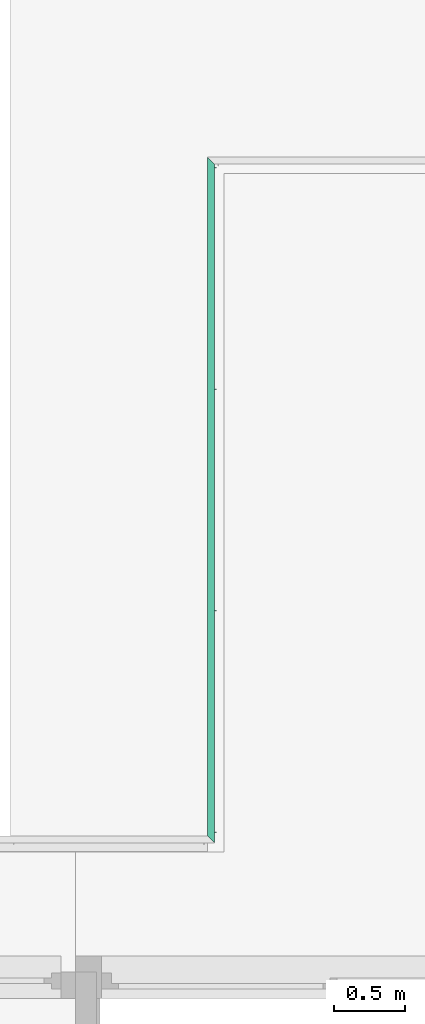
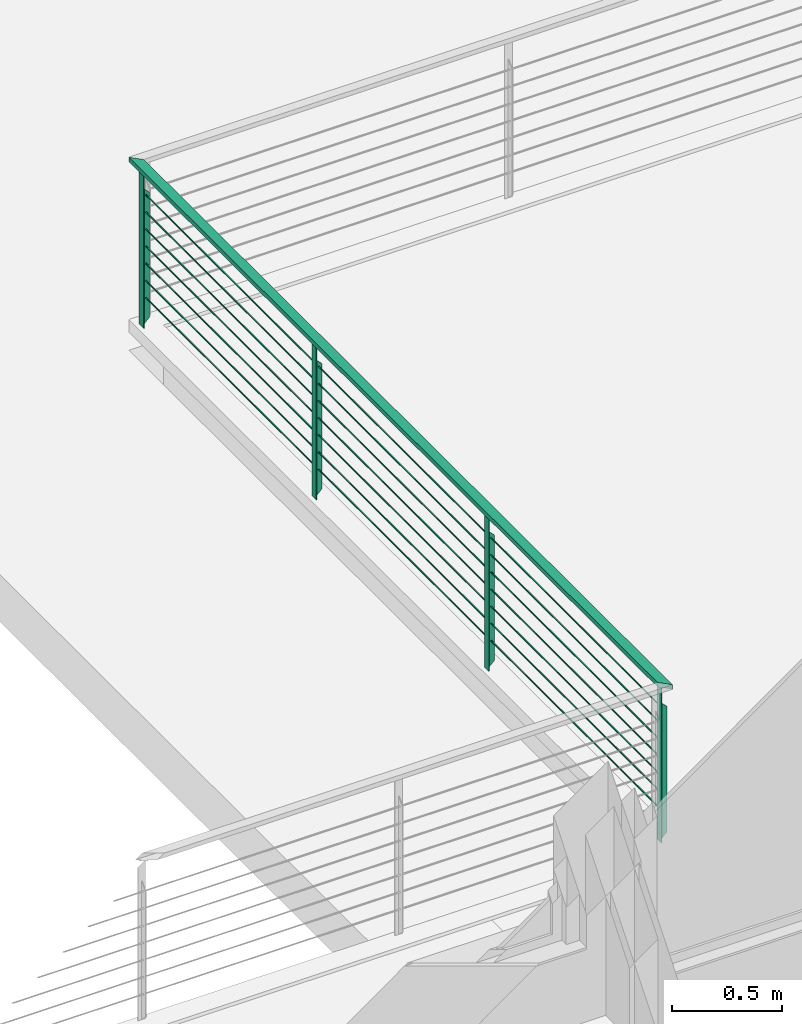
# One storey, part 20 of 24: 1 distribution element.
"""IFC2X3 building model written with IfcOpenShell, lengths in millimetres."""

from ifc_helpers import new_model, entity, si_unit, converted_unit, money_unit, direction, frame, origin_with_axes, place, context, subcontext, project, spatial, faceted_brep, material, type_object, element, save


model = new_model("IFC2X3")

# Units and contexts
model_context = context("Model", 3, precision=1e-05, world=origin_with_axes(), true_north=direction((0.0, 1.0)))
body_context = subcontext(model_context, "Body", "Model", "MODEL_VIEW")
ifc_project = project(units=[si_unit("LENGTHUNIT", "METRE", prefix="MILLI"), si_unit("AREAUNIT", "SQUARE_METRE"), si_unit("VOLUMEUNIT", "CUBIC_METRE"), converted_unit("PLANEANGLEUNIT", "DEGREE", entity("IfcPlaneAngleMeasure", 0.0174532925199), si_unit("PLANEANGLEUNIT", "RADIAN"), dimensions=[0, 0, 0, 0, 0, 0, 0]), si_unit("SOLIDANGLEUNIT", "STERADIAN"), money_unit("USD"), converted_unit("TIMEUNIT", "Year", entity("IfcTimeMeasure", 31556926.0), si_unit("TIMEUNIT", "SECOND"), dimensions=[0, 0, 0, 0, 0, 0, 0]), si_unit("MASSUNIT", "GRAM"), si_unit("THERMODYNAMICTEMPERATUREUNIT", "DEGREE_CELSIUS"), si_unit("LUMINOUSINTENSITYUNIT", "LUMEN")], contexts=[model_context])

# Site, building, storey
site_placement = place(None, origin_with_axes())
site = spatial("IfcSite", under=ifc_project, at=site_placement, Name="Grove Residential", CompositionType="ELEMENT")
building_placement = place(site_placement, origin_with_axes())
building = spatial("IfcBuilding", under=site, at=building_placement, Name="Building", CompositionType="ELEMENT")
storey_placement = place(building_placement, frame((0.0, 0.0, 3740.0), z_axis=(0.0, 0.0, 1.0), x_axis=(1.0, 0.0, 0.0)))
storey = spatial("IfcBuildingStorey", under=building, at=storey_placement, Name="First Floor", CompositionType="ELEMENT", Elevation=3740.0)

# Distribution element
ifc_material = material(Name="Background")
distribution_element_type = type_object("IfcDistributionElementType", Name="Rail Wired 02 20")
distribution_element_placement = place(storey_placement, frame((1524.99988526, 12775.0, -80.0), z_axis=(0.0, 0.0, 1.0), x_axis=(0.0, 1.0, 0.0)))
element("IfcDistributionElement", 1, at=distribution_element_placement, inside=storey, type_object=distribution_element_type, material=ifc_material, Name="FU - 001", context=body_context, shape_type="Brep", body=[
    faceted_brep([(25.0, 25.0, 875.0), (25.0, 25.0, 900.0), (25.0, 25.0, 900.0), (25.0, 25.0, 875.0), (-4775.0, 25.0, 875.0), (-4775.0, 25.0, 900.0), (-4825.0, -25.0, 900.0), (-4825.0, -25.0, 900.0), (-25.0, -25.0, 900.0), (-25.0, -25.0, 875.0), (-4825.0, -25.0, 875.0), (-4825.0, -25.0, 875.0)], [[[0, 1, 2, 3]], [[4, 5, 1, 0]], [[1, 5, 6, 7, 8, 2]], [[3, 2, 8, 9]], [[0, 3, 9, 10, 11, 4]], [[11, 6, 5, 4]], [[10, 7, 6, 11]], [[9, 8, 7, 10]]]),
    faceted_brep([(-30.0, -2.0, 0.0), (-30.0, -2.0, 871.0), (-70.0, -2.0, 871.0), (-70.0, -2.0, 0.0), (-30.0, 2.0, 0.0), (-30.0, 2.0, 871.0), (-70.0, 2.0, 871.0), (-70.0, 2.0, 0.0)], [[[0, 1, 2, 3]], [[4, 5, 1, 0]], [[1, 5, 6, 2]], [[3, 2, 6, 7]], [[0, 3, 7, 4]], [[7, 6, 5, 4]]]),
    faceted_brep([(-52.0, -38.0, 36.0), (-48.0, -38.0, 36.0), (-48.0, -38.0, 731.0), (-52.0, -38.0, 731.0), (-52.0, -2.0, 0.0), (-48.0, -2.0, 0.0), (-48.0, -2.0, 767.0), (-52.0, -2.0, 767.0)], [[[0, 1, 2, 3]], [[4, 5, 1, 0]], [[1, 5, 6, 2]], [[3, 2, 6, 7]], [[0, 3, 7, 4]], [[7, 6, 5, 4]]]),
    faceted_brep([(-1596.66666667, -2.0, 0.0), (-1596.66666667, -2.0, 871.0), (-1636.66666667, -2.0, 871.0), (-1636.66666667, -2.0, 0.0), (-1596.66666667, 2.0, 0.0), (-1596.66666667, 2.0, 871.0), (-1636.66666667, 2.0, 871.0), (-1636.66666667, 2.0, 0.0)], [[[0, 1, 2, 3]], [[4, 5, 1, 0]], [[1, 5, 6, 2]], [[3, 2, 6, 7]], [[0, 3, 7, 4]], [[7, 6, 5, 4]]]),
    faceted_brep([(-1618.66666667, -38.0, 36.0), (-1614.66666667, -38.0, 36.0), (-1614.66666667, -38.0, 731.0), (-1618.66666667, -38.0, 731.0), (-1618.66666667, -2.0, 0.0), (-1614.66666667, -2.0, 0.0), (-1614.66666667, -2.0, 767.0), (-1618.66666667, -2.0, 767.0)], [[[0, 1, 2, 3]], [[4, 5, 1, 0]], [[1, 5, 6, 2]], [[3, 2, 6, 7]], [[0, 3, 7, 4]], [[7, 6, 5, 4]]]),
    faceted_brep([(-3163.33333333, -2.0, 0.0), (-3163.33333333, -2.0, 871.0), (-3203.33333333, -2.0, 871.0), (-3203.33333333, -2.0, 0.0), (-3163.33333333, 2.0, 0.0), (-3163.33333333, 2.0, 871.0), (-3203.33333333, 2.0, 871.0), (-3203.33333333, 2.0, 0.0)], [[[0, 1, 2, 3]], [[4, 5, 1, 0]], [[1, 5, 6, 2]], [[3, 2, 6, 7]], [[0, 3, 7, 4]], [[7, 6, 5, 4]]]),
    faceted_brep([(-3185.33333333, -38.0, 36.0), (-3181.33333333, -38.0, 36.0), (-3181.33333333, -38.0, 731.0), (-3185.33333333, -38.0, 731.0), (-3185.33333333, -2.0, 0.0), (-3181.33333333, -2.0, 0.0), (-3181.33333333, -2.0, 767.0), (-3185.33333333, -2.0, 767.0)], [[[0, 1, 2, 3]], [[4, 5, 1, 0]], [[1, 5, 6, 2]], [[3, 2, 6, 7]], [[0, 3, 7, 4]], [[7, 6, 5, 4]]]),
    faceted_brep([(-4730.0, -2.0, 0.0), (-4730.0, -2.0, 871.0), (-4770.0, -2.0, 871.0), (-4770.0, -2.0, 0.0), (-4730.0, 2.0, 0.0), (-4730.0, 2.0, 871.0), (-4770.0, 2.0, 871.0), (-4770.0, 2.0, 0.0)], [[[0, 1, 2, 3]], [[4, 5, 1, 0]], [[1, 5, 6, 2]], [[3, 2, 6, 7]], [[0, 3, 7, 4]], [[7, 6, 5, 4]]]),
    faceted_brep([(-4752.0, -38.0, 36.0), (-4748.0, -38.0, 36.0), (-4748.0, -38.0, 731.0), (-4752.0, -38.0, 731.0), (-4752.0, -2.0, 0.0), (-4748.0, -2.0, 0.0), (-4748.0, -2.0, 767.0), (-4752.0, -2.0, 767.0)], [[[0, 1, 2, 3]], [[4, 5, 1, 0]], [[1, 5, 6, 2]], [[3, 2, 6, 7]], [[0, 3, 7, 4]], [[7, 6, 5, 4]]]),
    faceted_brep([(-20.0, -15.0, 871.0), (-20.0, -15.0, 875.0), (-80.0, -15.0, 875.0), (-80.0, -15.0, 871.0), (-20.0, 15.0, 871.0), (-20.0, 15.0, 875.0), (-80.0, 15.0, 875.0), (-80.0, 15.0, 871.0)], [[[0, 1, 2, 3]], [[4, 5, 1, 0]], [[1, 5, 6, 2]], [[3, 2, 6, 7]], [[0, 3, 7, 4]], [[7, 6, 5, 4]]]),
    faceted_brep([(-1586.66666667, -15.0, 871.0), (-1586.66666667, -15.0, 875.0), (-1646.66666667, -15.0, 875.0), (-1646.66666667, -15.0, 871.0), (-1586.66666667, 15.0, 871.0), (-1586.66666667, 15.0, 875.0), (-1646.66666667, 15.0, 875.0), (-1646.66666667, 15.0, 871.0)], [[[0, 1, 2, 3]], [[4, 5, 1, 0]], [[1, 5, 6, 2]], [[3, 2, 6, 7]], [[0, 3, 7, 4]], [[7, 6, 5, 4]]]),
    faceted_brep([(-3153.33333333, -15.0, 871.0), (-3153.33333333, -15.0, 875.0), (-3213.33333333, -15.0, 875.0), (-3213.33333333, -15.0, 871.0), (-3153.33333333, 15.0, 871.0), (-3153.33333333, 15.0, 875.0), (-3213.33333333, 15.0, 875.0), (-3213.33333333, 15.0, 871.0)], [[[0, 1, 2, 3]], [[4, 5, 1, 0]], [[1, 5, 6, 2]], [[3, 2, 6, 7]], [[0, 3, 7, 4]], [[7, 6, 5, 4]]]),
    faceted_brep([(-4720.0, -15.0, 871.0), (-4720.0, -15.0, 875.0), (-4780.0, -15.0, 875.0), (-4780.0, -15.0, 871.0), (-4720.0, 15.0, 871.0), (-4720.0, 15.0, 875.0), (-4780.0, 15.0, 875.0), (-4780.0, 15.0, 871.0)], [[[0, 1, 2, 3]], [[4, 5, 1, 0]], [[1, 5, 6, 2]], [[3, 2, 6, 7]], [[0, 3, 7, 4]], [[7, 6, 5, 4]]]),
    faceted_brep([(-4730.0, -22.0, 155.0), (-4748.0, -22.0, 155.0), (-4748.0, -22.5, 155.0), (-3185.33333333, -22.5, 155.0), (-3185.33333333, -22.0, 155.0), (-3203.33333333, -22.0, 155.0), (-3203.33333333, -18.0, 155.0), (-3163.33333333, -18.0, 155.0), (-3163.33333333, -22.0, 155.0), (-3181.33333333, -22.0, 155.0), (-3181.33333333, -22.5, 155.0), (-1618.66666667, -22.5, 155.0), (-1618.66666667, -22.0, 155.0), (-1636.66666667, -22.0, 155.0), (-1636.66666667, -18.0, 155.0), (-1596.66666667, -18.0, 155.0), (-1596.66666667, -22.0, 155.0), (-1614.66666667, -22.0, 155.0), (-1614.66666667, -22.5, 155.0), (-52.0, -22.5, 155.0), (-52.0, -22.0, 155.0), (-70.0, -22.0, 155.0), (-70.0, -18.0, 155.0), (-50.0, -18.0, 155.0), (-50.0, -17.5, 155.0), (-4750.0, -17.5, 155.0), (-4750.0, -18.0, 155.0), (-4730.0, -18.0, 155.0), (-4730.0, -22.0, 150.0), (-4748.0, -22.0, 150.0), (-4748.0, -22.5, 150.0), (-3185.33333333, -22.5, 150.0), (-3185.33333333, -22.0, 150.0), (-3203.33333333, -22.0, 150.0), (-3203.33333333, -18.0, 150.0), (-3163.33333333, -18.0, 150.0), (-3163.33333333, -22.0, 150.0), (-3181.33333333, -22.0, 150.0), (-3181.33333333, -22.5, 150.0), (-1618.66666667, -22.5, 150.0), (-1618.66666667, -22.0, 150.0), (-1636.66666667, -22.0, 150.0), (-1636.66666667, -18.0, 150.0), (-1596.66666667, -18.0, 150.0), (-1596.66666667, -22.0, 150.0), (-1614.66666667, -22.0, 150.0), (-1614.66666667, -22.5, 150.0), (-52.0, -22.5, 150.0), (-52.0, -22.0, 150.0), (-70.0, -22.0, 150.0), (-70.0, -18.0, 150.0), (-50.0, -18.0, 150.0), (-50.0, -17.5, 150.0), (-4750.0, -17.5, 150.0), (-4750.0, -18.0, 150.0), (-4730.0, -18.0, 150.0)], [[[0, 1, 2, 3, 4, 5, 6, 7, 8, 9, 10, 11, 12, 13, 14, 15, 16, 17, 18, 19, 20, 21, 22, 23, 24, 25, 26, 27]], [[0, 28, 29, 1]], [[29, 30, 2, 1]], [[3, 2, 30, 31]], [[3, 31, 32, 4]], [[32, 33, 5, 4]], [[5, 33, 34, 6]], [[6, 34, 35, 7]], [[7, 35, 36, 8]], [[9, 8, 36, 37]], [[37, 38, 10, 9]], [[38, 39, 11, 10]], [[11, 39, 40, 12]], [[40, 41, 13, 12]], [[13, 41, 42, 14]], [[14, 42, 43, 15]], [[15, 43, 44, 16]], [[17, 16, 44, 45]], [[45, 46, 18, 17]], [[46, 47, 19, 18]], [[19, 47, 48, 20]], [[48, 49, 21, 20]], [[21, 49, 50, 22]], [[22, 50, 51, 23]], [[51, 52, 24, 23]], [[25, 24, 52, 53]], [[26, 25, 53, 54]], [[54, 55, 27, 26]], [[27, 55, 28, 0]], [[28, 55, 54, 53, 52, 51, 50, 49, 48, 47, 46, 45, 44, 43, 42, 41, 40, 39, 38, 37, 36, 35, 34, 33, 32, 31, 30, 29]]]),
    faceted_brep([(-4730.0, -22.0, 250.0), (-4748.0, -22.0, 250.0), (-4748.0, -22.5, 250.0), (-3185.33333333, -22.5, 250.0), (-3185.33333333, -22.0, 250.0), (-3203.33333333, -22.0, 250.0), (-3203.33333333, -18.0, 250.0), (-3163.33333333, -18.0, 250.0), (-3163.33333333, -22.0, 250.0), (-3181.33333333, -22.0, 250.0), (-3181.33333333, -22.5, 250.0), (-1618.66666667, -22.5, 250.0), (-1618.66666667, -22.0, 250.0), (-1636.66666667, -22.0, 250.0), (-1636.66666667, -18.0, 250.0), (-1596.66666667, -18.0, 250.0), (-1596.66666667, -22.0, 250.0), (-1614.66666667, -22.0, 250.0), (-1614.66666667, -22.5, 250.0), (-52.0, -22.5, 250.0), (-52.0, -22.0, 250.0), (-70.0, -22.0, 250.0), (-70.0, -18.0, 250.0), (-50.0, -18.0, 250.0), (-50.0, -17.5, 250.0), (-4750.0, -17.5, 250.0), (-4750.0, -18.0, 250.0), (-4730.0, -18.0, 250.0), (-4730.0, -22.0, 245.0), (-4748.0, -22.0, 245.0), (-4748.0, -22.5, 245.0), (-3185.33333333, -22.5, 245.0), (-3185.33333333, -22.0, 245.0), (-3203.33333333, -22.0, 245.0), (-3203.33333333, -18.0, 245.0), (-3163.33333333, -18.0, 245.0), (-3163.33333333, -22.0, 245.0), (-3181.33333333, -22.0, 245.0), (-3181.33333333, -22.5, 245.0), (-1618.66666667, -22.5, 245.0), (-1618.66666667, -22.0, 245.0), (-1636.66666667, -22.0, 245.0), (-1636.66666667, -18.0, 245.0), (-1596.66666667, -18.0, 245.0), (-1596.66666667, -22.0, 245.0), (-1614.66666667, -22.0, 245.0), (-1614.66666667, -22.5, 245.0), (-52.0, -22.5, 245.0), (-52.0, -22.0, 245.0), (-70.0, -22.0, 245.0), (-70.0, -18.0, 245.0), (-50.0, -18.0, 245.0), (-50.0, -17.5, 245.0), (-4750.0, -17.5, 245.0), (-4750.0, -18.0, 245.0), (-4730.0, -18.0, 245.0)], [[[0, 1, 2, 3, 4, 5, 6, 7, 8, 9, 10, 11, 12, 13, 14, 15, 16, 17, 18, 19, 20, 21, 22, 23, 24, 25, 26, 27]], [[0, 28, 29, 1]], [[29, 30, 2, 1]], [[3, 2, 30, 31]], [[3, 31, 32, 4]], [[32, 33, 5, 4]], [[5, 33, 34, 6]], [[6, 34, 35, 7]], [[7, 35, 36, 8]], [[9, 8, 36, 37]], [[37, 38, 10, 9]], [[38, 39, 11, 10]], [[11, 39, 40, 12]], [[40, 41, 13, 12]], [[13, 41, 42, 14]], [[14, 42, 43, 15]], [[15, 43, 44, 16]], [[17, 16, 44, 45]], [[45, 46, 18, 17]], [[46, 47, 19, 18]], [[19, 47, 48, 20]], [[48, 49, 21, 20]], [[21, 49, 50, 22]], [[22, 50, 51, 23]], [[51, 52, 24, 23]], [[25, 24, 52, 53]], [[26, 25, 53, 54]], [[54, 55, 27, 26]], [[27, 55, 28, 0]], [[28, 55, 54, 53, 52, 51, 50, 49, 48, 47, 46, 45, 44, 43, 42, 41, 40, 39, 38, 37, 36, 35, 34, 33, 32, 31, 30, 29]]]),
    faceted_brep([(-4730.0, -22.0, 345.0), (-4748.0, -22.0, 345.0), (-4748.0, -22.5, 345.0), (-3185.33333333, -22.5, 345.0), (-3185.33333333, -22.0, 345.0), (-3203.33333333, -22.0, 345.0), (-3203.33333333, -18.0, 345.0), (-3163.33333333, -18.0, 345.0), (-3163.33333333, -22.0, 345.0), (-3181.33333333, -22.0, 345.0), (-3181.33333333, -22.5, 345.0), (-1618.66666667, -22.5, 345.0), (-1618.66666667, -22.0, 345.0), (-1636.66666667, -22.0, 345.0), (-1636.66666667, -18.0, 345.0), (-1596.66666667, -18.0, 345.0), (-1596.66666667, -22.0, 345.0), (-1614.66666667, -22.0, 345.0), (-1614.66666667, -22.5, 345.0), (-52.0, -22.5, 345.0), (-52.0, -22.0, 345.0), (-70.0, -22.0, 345.0), (-70.0, -18.0, 345.0), (-50.0, -18.0, 345.0), (-50.0, -17.5, 345.0), (-4750.0, -17.5, 345.0), (-4750.0, -18.0, 345.0), (-4730.0, -18.0, 345.0), (-4730.0, -22.0, 340.0), (-4748.0, -22.0, 340.0), (-4748.0, -22.5, 340.0), (-3185.33333333, -22.5, 340.0), (-3185.33333333, -22.0, 340.0), (-3203.33333333, -22.0, 340.0), (-3203.33333333, -18.0, 340.0), (-3163.33333333, -18.0, 340.0), (-3163.33333333, -22.0, 340.0), (-3181.33333333, -22.0, 340.0), (-3181.33333333, -22.5, 340.0), (-1618.66666667, -22.5, 340.0), (-1618.66666667, -22.0, 340.0), (-1636.66666667, -22.0, 340.0), (-1636.66666667, -18.0, 340.0), (-1596.66666667, -18.0, 340.0), (-1596.66666667, -22.0, 340.0), (-1614.66666667, -22.0, 340.0), (-1614.66666667, -22.5, 340.0), (-52.0, -22.5, 340.0), (-52.0, -22.0, 340.0), (-70.0, -22.0, 340.0), (-70.0, -18.0, 340.0), (-50.0, -18.0, 340.0), (-50.0, -17.5, 340.0), (-4750.0, -17.5, 340.0), (-4750.0, -18.0, 340.0), (-4730.0, -18.0, 340.0)], [[[0, 1, 2, 3, 4, 5, 6, 7, 8, 9, 10, 11, 12, 13, 14, 15, 16, 17, 18, 19, 20, 21, 22, 23, 24, 25, 26, 27]], [[0, 28, 29, 1]], [[29, 30, 2, 1]], [[3, 2, 30, 31]], [[3, 31, 32, 4]], [[32, 33, 5, 4]], [[5, 33, 34, 6]], [[6, 34, 35, 7]], [[7, 35, 36, 8]], [[9, 8, 36, 37]], [[37, 38, 10, 9]], [[38, 39, 11, 10]], [[11, 39, 40, 12]], [[40, 41, 13, 12]], [[13, 41, 42, 14]], [[14, 42, 43, 15]], [[15, 43, 44, 16]], [[17, 16, 44, 45]], [[45, 46, 18, 17]], [[46, 47, 19, 18]], [[19, 47, 48, 20]], [[48, 49, 21, 20]], [[21, 49, 50, 22]], [[22, 50, 51, 23]], [[51, 52, 24, 23]], [[25, 24, 52, 53]], [[26, 25, 53, 54]], [[54, 55, 27, 26]], [[27, 55, 28, 0]], [[28, 55, 54, 53, 52, 51, 50, 49, 48, 47, 46, 45, 44, 43, 42, 41, 40, 39, 38, 37, 36, 35, 34, 33, 32, 31, 30, 29]]]),
    faceted_brep([(-4730.0, -22.0, 440.0), (-4748.0, -22.0, 440.0), (-4748.0, -22.5, 440.0), (-3185.33333333, -22.5, 440.0), (-3185.33333333, -22.0, 440.0), (-3203.33333333, -22.0, 440.0), (-3203.33333333, -18.0, 440.0), (-3163.33333333, -18.0, 440.0), (-3163.33333333, -22.0, 440.0), (-3181.33333333, -22.0, 440.0), (-3181.33333333, -22.5, 440.0), (-1618.66666667, -22.5, 440.0), (-1618.66666667, -22.0, 440.0), (-1636.66666667, -22.0, 440.0), (-1636.66666667, -18.0, 440.0), (-1596.66666667, -18.0, 440.0), (-1596.66666667, -22.0, 440.0), (-1614.66666667, -22.0, 440.0), (-1614.66666667, -22.5, 440.0), (-52.0, -22.5, 440.0), (-52.0, -22.0, 440.0), (-70.0, -22.0, 440.0), (-70.0, -18.0, 440.0), (-50.0, -18.0, 440.0), (-50.0, -17.5, 440.0), (-4750.0, -17.5, 440.0), (-4750.0, -18.0, 440.0), (-4730.0, -18.0, 440.0), (-4730.0, -22.0, 435.0), (-4748.0, -22.0, 435.0), (-4748.0, -22.5, 435.0), (-3185.33333333, -22.5, 435.0), (-3185.33333333, -22.0, 435.0), (-3203.33333333, -22.0, 435.0), (-3203.33333333, -18.0, 435.0), (-3163.33333333, -18.0, 435.0), (-3163.33333333, -22.0, 435.0), (-3181.33333333, -22.0, 435.0), (-3181.33333333, -22.5, 435.0), (-1618.66666667, -22.5, 435.0), (-1618.66666667, -22.0, 435.0), (-1636.66666667, -22.0, 435.0), (-1636.66666667, -18.0, 435.0), (-1596.66666667, -18.0, 435.0), (-1596.66666667, -22.0, 435.0), (-1614.66666667, -22.0, 435.0), (-1614.66666667, -22.5, 435.0), (-52.0, -22.5, 435.0), (-52.0, -22.0, 435.0), (-70.0, -22.0, 435.0), (-70.0, -18.0, 435.0), (-50.0, -18.0, 435.0), (-50.0, -17.5, 435.0), (-4750.0, -17.5, 435.0), (-4750.0, -18.0, 435.0), (-4730.0, -18.0, 435.0)], [[[0, 1, 2, 3, 4, 5, 6, 7, 8, 9, 10, 11, 12, 13, 14, 15, 16, 17, 18, 19, 20, 21, 22, 23, 24, 25, 26, 27]], [[0, 28, 29, 1]], [[29, 30, 2, 1]], [[3, 2, 30, 31]], [[3, 31, 32, 4]], [[32, 33, 5, 4]], [[5, 33, 34, 6]], [[6, 34, 35, 7]], [[7, 35, 36, 8]], [[9, 8, 36, 37]], [[37, 38, 10, 9]], [[38, 39, 11, 10]], [[11, 39, 40, 12]], [[40, 41, 13, 12]], [[13, 41, 42, 14]], [[14, 42, 43, 15]], [[15, 43, 44, 16]], [[17, 16, 44, 45]], [[45, 46, 18, 17]], [[46, 47, 19, 18]], [[19, 47, 48, 20]], [[48, 49, 21, 20]], [[21, 49, 50, 22]], [[22, 50, 51, 23]], [[51, 52, 24, 23]], [[25, 24, 52, 53]], [[26, 25, 53, 54]], [[54, 55, 27, 26]], [[27, 55, 28, 0]], [[28, 55, 54, 53, 52, 51, 50, 49, 48, 47, 46, 45, 44, 43, 42, 41, 40, 39, 38, 37, 36, 35, 34, 33, 32, 31, 30, 29]]]),
    faceted_brep([(-4730.0, -22.0, 535.0), (-4748.0, -22.0, 535.0), (-4748.0, -22.5, 535.0), (-3185.33333333, -22.5, 535.0), (-3185.33333333, -22.0, 535.0), (-3203.33333333, -22.0, 535.0), (-3203.33333333, -18.0, 535.0), (-3163.33333333, -18.0, 535.0), (-3163.33333333, -22.0, 535.0), (-3181.33333333, -22.0, 535.0), (-3181.33333333, -22.5, 535.0), (-1618.66666667, -22.5, 535.0), (-1618.66666667, -22.0, 535.0), (-1636.66666667, -22.0, 535.0), (-1636.66666667, -18.0, 535.0), (-1596.66666667, -18.0, 535.0), (-1596.66666667, -22.0, 535.0), (-1614.66666667, -22.0, 535.0), (-1614.66666667, -22.5, 535.0), (-52.0, -22.5, 535.0), (-52.0, -22.0, 535.0), (-70.0, -22.0, 535.0), (-70.0, -18.0, 535.0), (-50.0, -18.0, 535.0), (-50.0, -17.5, 535.0), (-4750.0, -17.5, 535.0), (-4750.0, -18.0, 535.0), (-4730.0, -18.0, 535.0), (-4730.0, -22.0, 530.0), (-4748.0, -22.0, 530.0), (-4748.0, -22.5, 530.0), (-3185.33333333, -22.5, 530.0), (-3185.33333333, -22.0, 530.0), (-3203.33333333, -22.0, 530.0), (-3203.33333333, -18.0, 530.0), (-3163.33333333, -18.0, 530.0), (-3163.33333333, -22.0, 530.0), (-3181.33333333, -22.0, 530.0), (-3181.33333333, -22.5, 530.0), (-1618.66666667, -22.5, 530.0), (-1618.66666667, -22.0, 530.0), (-1636.66666667, -22.0, 530.0), (-1636.66666667, -18.0, 530.0), (-1596.66666667, -18.0, 530.0), (-1596.66666667, -22.0, 530.0), (-1614.66666667, -22.0, 530.0), (-1614.66666667, -22.5, 530.0), (-52.0, -22.5, 530.0), (-52.0, -22.0, 530.0), (-70.0, -22.0, 530.0), (-70.0, -18.0, 530.0), (-50.0, -18.0, 530.0), (-50.0, -17.5, 530.0), (-4750.0, -17.5, 530.0), (-4750.0, -18.0, 530.0), (-4730.0, -18.0, 530.0)], [[[0, 1, 2, 3, 4, 5, 6, 7, 8, 9, 10, 11, 12, 13, 14, 15, 16, 17, 18, 19, 20, 21, 22, 23, 24, 25, 26, 27]], [[0, 28, 29, 1]], [[29, 30, 2, 1]], [[3, 2, 30, 31]], [[3, 31, 32, 4]], [[32, 33, 5, 4]], [[5, 33, 34, 6]], [[6, 34, 35, 7]], [[7, 35, 36, 8]], [[9, 8, 36, 37]], [[37, 38, 10, 9]], [[38, 39, 11, 10]], [[11, 39, 40, 12]], [[40, 41, 13, 12]], [[13, 41, 42, 14]], [[14, 42, 43, 15]], [[15, 43, 44, 16]], [[17, 16, 44, 45]], [[45, 46, 18, 17]], [[46, 47, 19, 18]], [[19, 47, 48, 20]], [[48, 49, 21, 20]], [[21, 49, 50, 22]], [[22, 50, 51, 23]], [[51, 52, 24, 23]], [[25, 24, 52, 53]], [[26, 25, 53, 54]], [[54, 55, 27, 26]], [[27, 55, 28, 0]], [[28, 55, 54, 53, 52, 51, 50, 49, 48, 47, 46, 45, 44, 43, 42, 41, 40, 39, 38, 37, 36, 35, 34, 33, 32, 31, 30, 29]]]),
    faceted_brep([(-4730.0, -22.0, 630.0), (-4748.0, -22.0, 630.0), (-4748.0, -22.5, 630.0), (-3185.33333333, -22.5, 630.0), (-3185.33333333, -22.0, 630.0), (-3203.33333333, -22.0, 630.0), (-3203.33333333, -18.0, 630.0), (-3163.33333333, -18.0, 630.0), (-3163.33333333, -22.0, 630.0), (-3181.33333333, -22.0, 630.0), (-3181.33333333, -22.5, 630.0), (-1618.66666667, -22.5, 630.0), (-1618.66666667, -22.0, 630.0), (-1636.66666667, -22.0, 630.0), (-1636.66666667, -18.0, 630.0), (-1596.66666667, -18.0, 630.0), (-1596.66666667, -22.0, 630.0), (-1614.66666667, -22.0, 630.0), (-1614.66666667, -22.5, 630.0), (-52.0, -22.5, 630.0), (-52.0, -22.0, 630.0), (-70.0, -22.0, 630.0), (-70.0, -18.0, 630.0), (-50.0, -18.0, 630.0), (-50.0, -17.5, 630.0), (-4750.0, -17.5, 630.0), (-4750.0, -18.0, 630.0), (-4730.0, -18.0, 630.0), (-4730.0, -22.0, 625.0), (-4748.0, -22.0, 625.0), (-4748.0, -22.5, 625.0), (-3185.33333333, -22.5, 625.0), (-3185.33333333, -22.0, 625.0), (-3203.33333333, -22.0, 625.0), (-3203.33333333, -18.0, 625.0), (-3163.33333333, -18.0, 625.0), (-3163.33333333, -22.0, 625.0), (-3181.33333333, -22.0, 625.0), (-3181.33333333, -22.5, 625.0), (-1618.66666667, -22.5, 625.0), (-1618.66666667, -22.0, 625.0), (-1636.66666667, -22.0, 625.0), (-1636.66666667, -18.0, 625.0), (-1596.66666667, -18.0, 625.0), (-1596.66666667, -22.0, 625.0), (-1614.66666667, -22.0, 625.0), (-1614.66666667, -22.5, 625.0), (-52.0, -22.5, 625.0), (-52.0, -22.0, 625.0), (-70.0, -22.0, 625.0), (-70.0, -18.0, 625.0), (-50.0, -18.0, 625.0), (-50.0, -17.5, 625.0), (-4750.0, -17.5, 625.0), (-4750.0, -18.0, 625.0), (-4730.0, -18.0, 625.0)], [[[0, 1, 2, 3, 4, 5, 6, 7, 8, 9, 10, 11, 12, 13, 14, 15, 16, 17, 18, 19, 20, 21, 22, 23, 24, 25, 26, 27]], [[0, 28, 29, 1]], [[29, 30, 2, 1]], [[3, 2, 30, 31]], [[3, 31, 32, 4]], [[32, 33, 5, 4]], [[5, 33, 34, 6]], [[6, 34, 35, 7]], [[7, 35, 36, 8]], [[9, 8, 36, 37]], [[37, 38, 10, 9]], [[38, 39, 11, 10]], [[11, 39, 40, 12]], [[40, 41, 13, 12]], [[13, 41, 42, 14]], [[14, 42, 43, 15]], [[15, 43, 44, 16]], [[17, 16, 44, 45]], [[45, 46, 18, 17]], [[46, 47, 19, 18]], [[19, 47, 48, 20]], [[48, 49, 21, 20]], [[21, 49, 50, 22]], [[22, 50, 51, 23]], [[51, 52, 24, 23]], [[25, 24, 52, 53]], [[26, 25, 53, 54]], [[54, 55, 27, 26]], [[27, 55, 28, 0]], [[28, 55, 54, 53, 52, 51, 50, 49, 48, 47, 46, 45, 44, 43, 42, 41, 40, 39, 38, 37, 36, 35, 34, 33, 32, 31, 30, 29]]]),
    faceted_brep([(-4730.0, -22.0, 725.0), (-4748.0, -22.0, 725.0), (-4748.0, -22.5, 725.0), (-3185.33333333, -22.5, 725.0), (-3185.33333333, -22.0, 725.0), (-3203.33333333, -22.0, 725.0), (-3203.33333333, -18.0, 725.0), (-3163.33333333, -18.0, 725.0), (-3163.33333333, -22.0, 725.0), (-3181.33333333, -22.0, 725.0), (-3181.33333333, -22.5, 725.0), (-1618.66666667, -22.5, 725.0), (-1618.66666667, -22.0, 725.0), (-1636.66666667, -22.0, 725.0), (-1636.66666667, -18.0, 725.0), (-1596.66666667, -18.0, 725.0), (-1596.66666667, -22.0, 725.0), (-1614.66666667, -22.0, 725.0), (-1614.66666667, -22.5, 725.0), (-52.0, -22.5, 725.0), (-52.0, -22.0, 725.0), (-70.0, -22.0, 725.0), (-70.0, -18.0, 725.0), (-50.0, -18.0, 725.0), (-50.0, -17.5, 725.0), (-4750.0, -17.5, 725.0), (-4750.0, -18.0, 725.0), (-4730.0, -18.0, 725.0), (-4730.0, -22.0, 720.0), (-4748.0, -22.0, 720.0), (-4748.0, -22.5, 720.0), (-3185.33333333, -22.5, 720.0), (-3185.33333333, -22.0, 720.0), (-3203.33333333, -22.0, 720.0), (-3203.33333333, -18.0, 720.0), (-3163.33333333, -18.0, 720.0), (-3163.33333333, -22.0, 720.0), (-3181.33333333, -22.0, 720.0), (-3181.33333333, -22.5, 720.0), (-1618.66666667, -22.5, 720.0), (-1618.66666667, -22.0, 720.0), (-1636.66666667, -22.0, 720.0), (-1636.66666667, -18.0, 720.0), (-1596.66666667, -18.0, 720.0), (-1596.66666667, -22.0, 720.0), (-1614.66666667, -22.0, 720.0), (-1614.66666667, -22.5, 720.0), (-52.0, -22.5, 720.0), (-52.0, -22.0, 720.0), (-70.0, -22.0, 720.0), (-70.0, -18.0, 720.0), (-50.0, -18.0, 720.0), (-50.0, -17.5, 720.0), (-4750.0, -17.5, 720.0), (-4750.0, -18.0, 720.0), (-4730.0, -18.0, 720.0)], [[[0, 1, 2, 3, 4, 5, 6, 7, 8, 9, 10, 11, 12, 13, 14, 15, 16, 17, 18, 19, 20, 21, 22, 23, 24, 25, 26, 27]], [[0, 28, 29, 1]], [[29, 30, 2, 1]], [[3, 2, 30, 31]], [[3, 31, 32, 4]], [[32, 33, 5, 4]], [[5, 33, 34, 6]], [[6, 34, 35, 7]], [[7, 35, 36, 8]], [[9, 8, 36, 37]], [[37, 38, 10, 9]], [[38, 39, 11, 10]], [[11, 39, 40, 12]], [[40, 41, 13, 12]], [[13, 41, 42, 14]], [[14, 42, 43, 15]], [[15, 43, 44, 16]], [[17, 16, 44, 45]], [[45, 46, 18, 17]], [[46, 47, 19, 18]], [[19, 47, 48, 20]], [[48, 49, 21, 20]], [[21, 49, 50, 22]], [[22, 50, 51, 23]], [[51, 52, 24, 23]], [[25, 24, 52, 53]], [[26, 25, 53, 54]], [[54, 55, 27, 26]], [[27, 55, 28, 0]], [[28, 55, 54, 53, 52, 51, 50, 49, 48, 47, 46, 45, 44, 43, 42, 41, 40, 39, 38, 37, 36, 35, 34, 33, 32, 31, 30, 29]]]),
])

save(model, "model.ifc")
